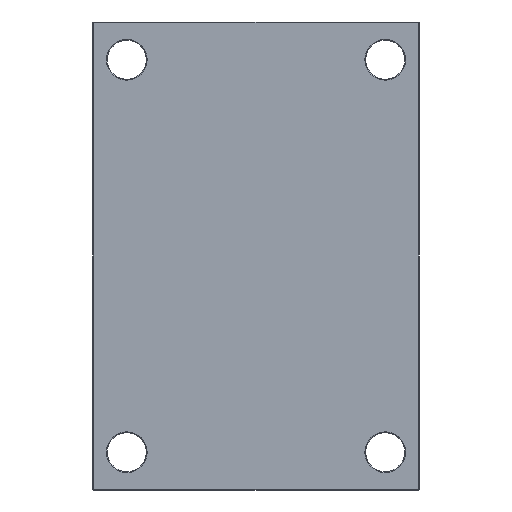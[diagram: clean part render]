
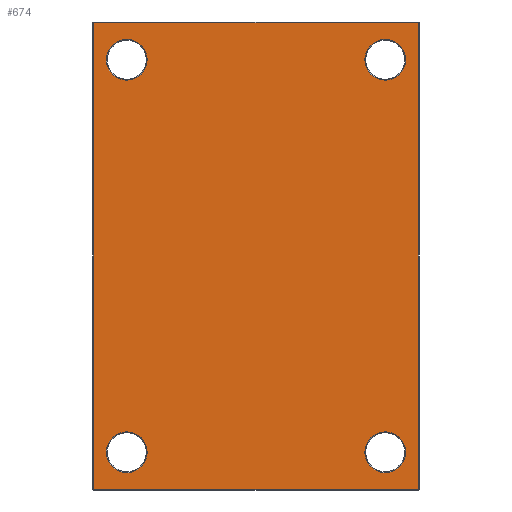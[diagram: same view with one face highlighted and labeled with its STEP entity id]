
A CAD part, front view. The second image highlights one B-rep face of the part: STEP entity #674.
In plain terms, the highlighted planar face has unit normal (0, -1, 0).
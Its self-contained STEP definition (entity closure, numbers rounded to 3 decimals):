
#2 = DIRECTION ( 'NONE',  ( 0., 1., 0. ) ) ;
#9 = VERTEX_POINT ( 'NONE', #1040 ) ;
#10 = DIRECTION ( 'NONE',  ( 0., 0., 1. ) ) ;
#23 = ORIENTED_EDGE ( 'NONE', *, *, #415, .T. ) ;
#24 = CARTESIAN_POINT ( 'NONE',  ( 172., 0., 0. ) ) ;
#72 = ORIENTED_EDGE ( 'NONE', *, *, #1728, .T. ) ;
#87 = EDGE_CURVE ( 'NONE', #1270, #486, #962, .T. ) ;
#105 = VECTOR ( 'NONE', #164, 1000. ) ;
#130 = DIRECTION ( 'NONE',  ( 0., 1., 0. ) ) ;
#164 = DIRECTION ( 'NONE',  ( 1., 0., 0. ) ) ;
#203 = DIRECTION ( 'NONE',  ( 0., 0., 1. ) ) ;
#205 = CARTESIAN_POINT ( 'NONE',  ( -137., 0., -186.35 ) ) ;
#208 = CARTESIAN_POINT ( 'NONE',  ( -137., 0., 186.35 ) ) ;
#209 = EDGE_CURVE ( 'NONE', #1799, #1270, #1645, .T. ) ;
#216 = CARTESIAN_POINT ( 'NONE',  ( -172., 0., 0. ) ) ;
#219 = VERTEX_POINT ( 'NONE', #205 ) ;
#220 = DIRECTION ( 'NONE',  ( 0., 0., -1. ) ) ;
#229 = DIRECTION ( 'NONE',  ( 0., 0., 1. ) ) ;
#274 = CARTESIAN_POINT ( 'NONE',  ( 137., 0., 229.65 ) ) ;
#304 = VERTEX_POINT ( 'NONE', #736 ) ;
#348 = FACE_OUTER_BOUND ( 'NONE', #2047, .T. ) ;
#377 = VECTOR ( 'NONE', #2121, 1000. ) ;
#415 = EDGE_CURVE ( 'NONE', #219, #1933, #2131, .T. ) ;
#420 = VECTOR ( 'NONE', #203, 1000. ) ;
#427 = CIRCLE ( 'NONE', #1082, 21.65 ) ;
#432 = CARTESIAN_POINT ( 'NONE',  ( -137., 0., -208. ) ) ;
#466 = DIRECTION ( 'NONE',  ( 0., 0., 1. ) ) ;
#486 = VERTEX_POINT ( 'NONE', #998 ) ;
#537 = CIRCLE ( 'NONE', #1102, 21.65 ) ;
#542 = EDGE_CURVE ( 'NONE', #2118, #1360, #1800, .T. ) ;
#557 = CARTESIAN_POINT ( 'NONE',  ( -137., 0., 208. ) ) ;
#640 = CIRCLE ( 'NONE', #1118, 21.65 ) ;
#646 = ORIENTED_EDGE ( 'NONE', *, *, #1604, .T. ) ;
#674 = ADVANCED_FACE ( 'NONE', ( #1777, #1718, #1277, #806, #348 ), #1459, .F. ) ;
#736 = CARTESIAN_POINT ( 'NONE',  ( 137., 0., -186.35 ) ) ;
#762 = CARTESIAN_POINT ( 'NONE',  ( 137., 0., -208. ) ) ;
#774 = EDGE_LOOP ( 'NONE', ( #2119, #23 ) ) ;
#788 = VECTOR ( 'NONE', #220, 1000. ) ;
#806 = FACE_BOUND ( 'NONE', #2180, .T. ) ;
#856 = AXIS2_PLACEMENT_3D ( 'NONE', #1244, #1340, #1510 ) ;
#880 = EDGE_CURVE ( 'NONE', #1992, #1799, #2147, .T. ) ;
#889 = CIRCLE ( 'NONE', #1132, 21.65 ) ;
#962 = LINE ( 'NONE', #1528, #105 ) ;
#969 = ORIENTED_EDGE ( 'NONE', *, *, #2005, .T. ) ;
#998 = CARTESIAN_POINT ( 'NONE',  ( 172., 0., -247. ) ) ;
#1024 = ORIENTED_EDGE ( 'NONE', *, *, #2169, .T. ) ;
#1030 = EDGE_CURVE ( 'NONE', #9, #1683, #1170, .T. ) ;
#1040 = CARTESIAN_POINT ( 'NONE',  ( 137., 0., 186.35 ) ) ;
#1078 = DIRECTION ( 'NONE',  ( 0., 1., 0. ) ) ;
#1082 = AXIS2_PLACEMENT_3D ( 'NONE', #762, #2157, #2017 ) ;
#1085 = CARTESIAN_POINT ( 'NONE',  ( 137., 0., 208. ) ) ;
#1102 = AXIS2_PLACEMENT_3D ( 'NONE', #432, #1294, #1474 ) ;
#1118 = AXIS2_PLACEMENT_3D ( 'NONE', #1276, #1267, #1301 ) ;
#1132 = AXIS2_PLACEMENT_3D ( 'NONE', #557, #130, #229 ) ;
#1139 = CARTESIAN_POINT ( 'NONE',  ( -172., 0., 247. ) ) ;
#1170 = CIRCLE ( 'NONE', #1264, 21.65 ) ;
#1244 = CARTESIAN_POINT ( 'NONE',  ( 137., 0., 208. ) ) ;
#1264 = AXIS2_PLACEMENT_3D ( 'NONE', #1085, #1078, #466 ) ;
#1267 = DIRECTION ( 'NONE',  ( 0., 1., 0. ) ) ;
#1270 = VERTEX_POINT ( 'NONE', #2127 ) ;
#1276 = CARTESIAN_POINT ( 'NONE',  ( 137., 0., -208. ) ) ;
#1277 = FACE_BOUND ( 'NONE', #1864, .T. ) ;
#1281 = CIRCLE ( 'NONE', #856, 21.65 ) ;
#1294 = DIRECTION ( 'NONE',  ( 0., 1., 0. ) ) ;
#1301 = DIRECTION ( 'NONE',  ( 0., 0., 1. ) ) ;
#1338 = CARTESIAN_POINT ( 'NONE',  ( 172., 0., 247. ) ) ;
#1340 = DIRECTION ( 'NONE',  ( 0., 1., 0. ) ) ;
#1352 = AXIS2_PLACEMENT_3D ( 'NONE', #1396, #1625, #1738 ) ;
#1360 = VERTEX_POINT ( 'NONE', #208 ) ;
#1384 = CARTESIAN_POINT ( 'NONE',  ( -137., 0., -229.65 ) ) ;
#1396 = CARTESIAN_POINT ( 'NONE',  ( 0., 0., 0. ) ) ;
#1423 = ORIENTED_EDGE ( 'NONE', *, *, #1030, .T. ) ;
#1433 = EDGE_LOOP ( 'NONE', ( #1771, #72 ) ) ;
#1454 = AXIS2_PLACEMENT_3D ( 'NONE', #1704, #1819, #1839 ) ;
#1459 = PLANE ( 'NONE',  #1352 ) ;
#1474 = DIRECTION ( 'NONE',  ( 0., 0., 1. ) ) ;
#1510 = DIRECTION ( 'NONE',  ( 0., 0., 1. ) ) ;
#1528 = CARTESIAN_POINT ( 'NONE',  ( 0., 0., -247. ) ) ;
#1530 = ORIENTED_EDGE ( 'NONE', *, *, #209, .T. ) ;
#1537 = AXIS2_PLACEMENT_3D ( 'NONE', #1869, #2, #10 ) ;
#1604 = EDGE_CURVE ( 'NONE', #1360, #2118, #889, .T. ) ;
#1625 = DIRECTION ( 'NONE',  ( 0., 1., 0. ) ) ;
#1645 = LINE ( 'NONE', #216, #788 ) ;
#1656 = EDGE_CURVE ( 'NONE', #1861, #304, #640, .T. ) ;
#1683 = VERTEX_POINT ( 'NONE', #274 ) ;
#1690 = CARTESIAN_POINT ( 'NONE',  ( -137., 0., 229.65 ) ) ;
#1704 = CARTESIAN_POINT ( 'NONE',  ( -137., 0., 208. ) ) ;
#1708 = EDGE_CURVE ( 'NONE', #1933, #219, #537, .T. ) ;
#1709 = ORIENTED_EDGE ( 'NONE', *, *, #880, .T. ) ;
#1718 = FACE_BOUND ( 'NONE', #1433, .T. ) ;
#1728 = EDGE_CURVE ( 'NONE', #304, #1861, #427, .T. ) ;
#1738 = DIRECTION ( 'NONE',  ( 0., 0., 1. ) ) ;
#1752 = LINE ( 'NONE', #24, #420 ) ;
#1771 = ORIENTED_EDGE ( 'NONE', *, *, #1656, .T. ) ;
#1777 = FACE_BOUND ( 'NONE', #774, .T. ) ;
#1799 = VERTEX_POINT ( 'NONE', #1139 ) ;
#1800 = CIRCLE ( 'NONE', #1454, 21.65 ) ;
#1819 = DIRECTION ( 'NONE',  ( 0., 1., 0. ) ) ;
#1839 = DIRECTION ( 'NONE',  ( 0., 0., 1. ) ) ;
#1861 = VERTEX_POINT ( 'NONE', #1888 ) ;
#1863 = ORIENTED_EDGE ( 'NONE', *, *, #87, .T. ) ;
#1864 = EDGE_LOOP ( 'NONE', ( #1423, #969 ) ) ;
#1869 = CARTESIAN_POINT ( 'NONE',  ( -137., 0., -208. ) ) ;
#1888 = CARTESIAN_POINT ( 'NONE',  ( 137., 0., -229.65 ) ) ;
#1933 = VERTEX_POINT ( 'NONE', #1384 ) ;
#1989 = ORIENTED_EDGE ( 'NONE', *, *, #542, .T. ) ;
#1992 = VERTEX_POINT ( 'NONE', #1338 ) ;
#2005 = EDGE_CURVE ( 'NONE', #1683, #9, #1281, .T. ) ;
#2017 = DIRECTION ( 'NONE',  ( 0., 0., 1. ) ) ;
#2047 = EDGE_LOOP ( 'NONE', ( #1024, #1709, #1530, #1863 ) ) ;
#2086 = CARTESIAN_POINT ( 'NONE',  ( 0., 0., 247. ) ) ;
#2118 = VERTEX_POINT ( 'NONE', #1690 ) ;
#2119 = ORIENTED_EDGE ( 'NONE', *, *, #1708, .T. ) ;
#2121 = DIRECTION ( 'NONE',  ( -1., 0., 0. ) ) ;
#2127 = CARTESIAN_POINT ( 'NONE',  ( -172., 0., -247. ) ) ;
#2131 = CIRCLE ( 'NONE', #1537, 21.65 ) ;
#2147 = LINE ( 'NONE', #2086, #377 ) ;
#2157 = DIRECTION ( 'NONE',  ( 0., 1., 0. ) ) ;
#2169 = EDGE_CURVE ( 'NONE', #486, #1992, #1752, .T. ) ;
#2180 = EDGE_LOOP ( 'NONE', ( #646, #1989 ) ) ;
